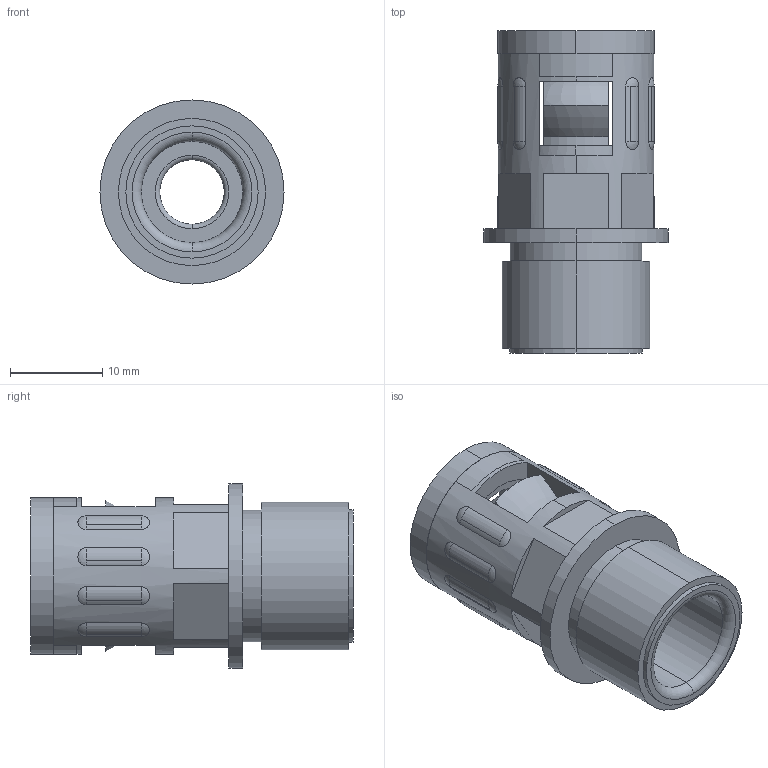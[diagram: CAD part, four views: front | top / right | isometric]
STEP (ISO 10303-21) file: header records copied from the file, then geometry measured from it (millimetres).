
FILE_DESCRIPTION (( 'STEP AP203' ), '1' );
FILE_NAME ('WQG-M16-AD10.0.STEP', '2020-03-11T03:10:34', ( '' ), ( '' ), 'SwSTEP 2.0', 'SolidWorks 2016', '' );
FILE_SCHEMA (( 'CONFIG_CONTROL_DESIGN' ));
Length unit declared in the file: millimetre
Products named in the file (4): WQG-M16-AD10.0-01; NSK-AD10.0; GFD-AD10.0; WQG-M16-AD10.0
Assembly tree (3 placements, depth 2):
  WQG-M16-AD10.0
    WQG-M16-AD10.0-01
    GFD-AD10.0
    NSK-AD10.0
Bounding box: 20 x 35 x 20 mm (x, y, z)
Volume: 3449.5 mm3; surface area: 5842.7 mm2
Topology: 3 solids, 6 shells, 191 faces, 497 edges, 310 vertices
Faces by surface type: plane 58, cone 47, cylinder 46, torus 24, sphere 16
Entity records: 6575 total; most frequent: CARTESIAN_POINT 1588, DIRECTION 1022, ORIENTED_EDGE 926, EDGE_CURVE 465, AXIS2_PLACEMENT_3D 431, VERTEX_POINT 294, CIRCLE 233, EDGE_LOOP 216
